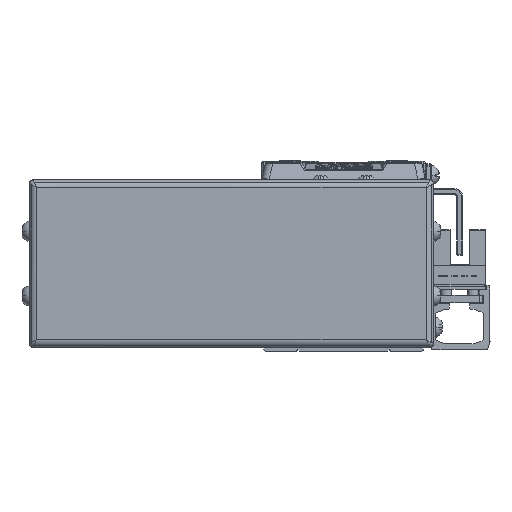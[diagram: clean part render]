
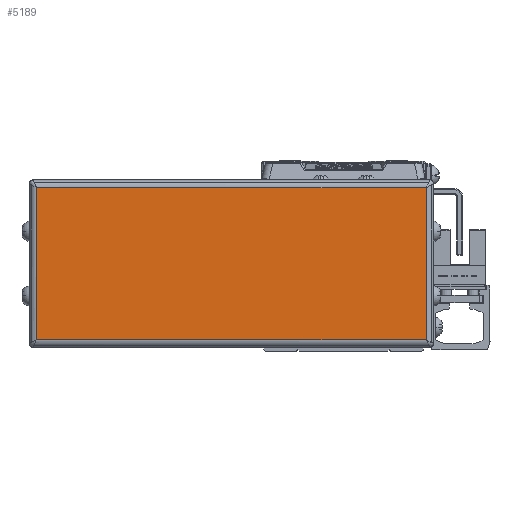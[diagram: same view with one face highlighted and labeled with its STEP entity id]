
A CAD part, left-side view. The second image highlights one B-rep face of the part: STEP entity #5189.
In plain terms, the highlighted planar face has unit normal (-1, 0, 0).
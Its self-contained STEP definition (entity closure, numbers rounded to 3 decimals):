
#5189=ADVANCED_FACE('',(#11172),#11173,.F.);
#11172=FACE_OUTER_BOUND('',#19955,.T.);
#11173=PLANE('',#19956);
#19955=EDGE_LOOP('',(#35662,#35663,#35664,#35665));
#19956=AXIS2_PLACEMENT_3D('',#35666,#35667,#35668);
#35662=ORIENTED_EDGE('',*,*,#49983,.T.);
#35663=ORIENTED_EDGE('',*,*,#49984,.T.);
#35664=ORIENTED_EDGE('',*,*,#48854,.T.);
#35665=ORIENTED_EDGE('',*,*,#49985,.T.);
#35666=CARTESIAN_POINT('',(-48.,29.5,-4.));
#35667=DIRECTION('',(1.0,0.,0.));
#35668=DIRECTION('',(0.,0.,1.0));
#48854=EDGE_CURVE('',#58535,#59616,#59618,.T.);
#49983=EDGE_CURVE('',#60718,#60552,#61155,.T.);
#49984=EDGE_CURVE('',#60552,#58535,#61156,.T.);
#49985=EDGE_CURVE('',#59616,#60718,#61157,.T.);
#58535=VERTEX_POINT('',#72945);
#59616=VERTEX_POINT('',#74564);
#59618=LINE('',#74566,#74567);
#60552=VERTEX_POINT('',#76047);
#60718=VERTEX_POINT('',#76269);
#61155=LINE('',#76875,#76876);
#61156=LINE('',#76877,#76878);
#61157=LINE('',#76879,#76880);
#72945=CARTESIAN_POINT('',(-48.,80.7,-24.));
#74564=CARTESIAN_POINT('',(-48.,-21.7,-24.));
#74566=CARTESIAN_POINT('',(-48.,29.5,-24.));
#74567=VECTOR('',#86120,10.0);
#76047=CARTESIAN_POINT('',(-48.,80.7,16.));
#76269=CARTESIAN_POINT('',(-48.,-21.7,16.));
#76875=CARTESIAN_POINT('',(-48.,29.5,16.));
#76876=VECTOR('',#87469,10.0);
#76877=CARTESIAN_POINT('',(-48.,80.7,-4.));
#76878=VECTOR('',#87470,10.0);
#76879=CARTESIAN_POINT('',(-48.,-21.7,-4.));
#76880=VECTOR('',#87471,10.0);
#86120=DIRECTION('',(0.,-1.0,0.));
#87469=DIRECTION('',(0.,1.0,0.));
#87470=DIRECTION('',(0.,0.,-1.0));
#87471=DIRECTION('',(0.,0.,1.0));
